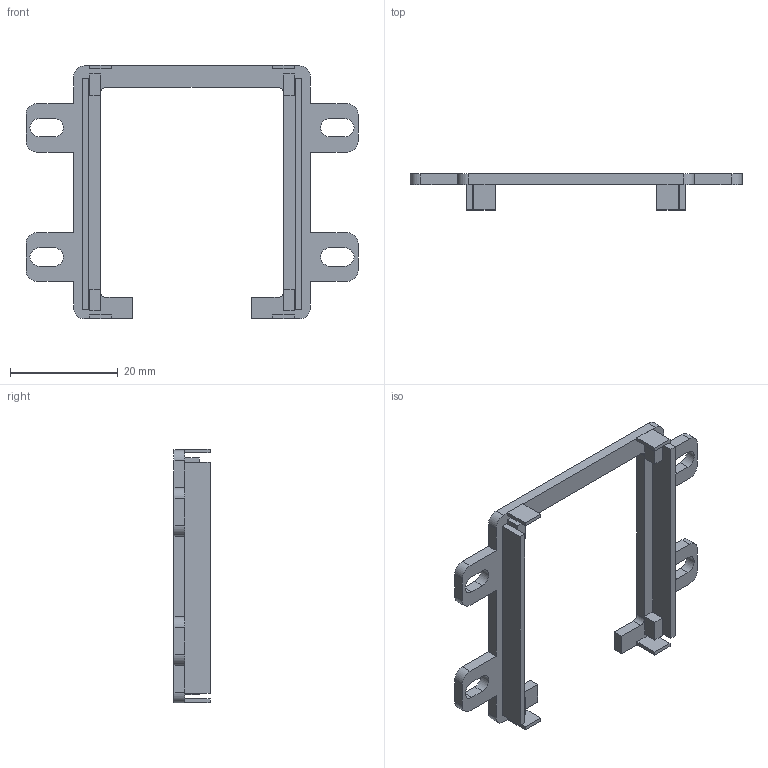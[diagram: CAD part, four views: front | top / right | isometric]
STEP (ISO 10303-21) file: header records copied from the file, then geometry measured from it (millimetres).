
FILE_DESCRIPTION(('Open CASCADE Model'),'2;1');
FILE_NAME('Open CASCADE Shape Model','2026-10-01T12:35:22',('Author'),( 'Open CASCADE'),'Open CASCADE STEP processor 7.8','Open CASCADE 7.8' ,'Unknown');
FILE_SCHEMA(('AUTOMOTIVE_DESIGN { 1 0 10303 214 1 1 1 1 }'));
Length unit declared in the file: millimetre
Products named in the file (2): P04_Adjustable_display_carrier; P04_Adjustable_display_carrier_solid
Assembly tree (1 placements, depth 2):
  P04_Adjustable_display_carrier
    P04_Adjustable_display_carrier_solid
Bounding box: 61.68 x 6.7 x 47.15 mm (x, y, z)
Volume: 2400.9 mm3; surface area: 3748.1 mm2
Topology: 1 solids, 1 shells, 110 faces, 308 edges, 204 vertices
Faces by surface type: plane 86, cylinder 24
Entity records: 7551 total; most frequent: CARTESIAN_POINT 1362, DIRECTION 1134, LINE 778, VECTOR 778, ORIENTED_EDGE 616, PCURVE 616, DEFINITIONAL_REPRESENTATION 616, EDGE_CURVE 308
